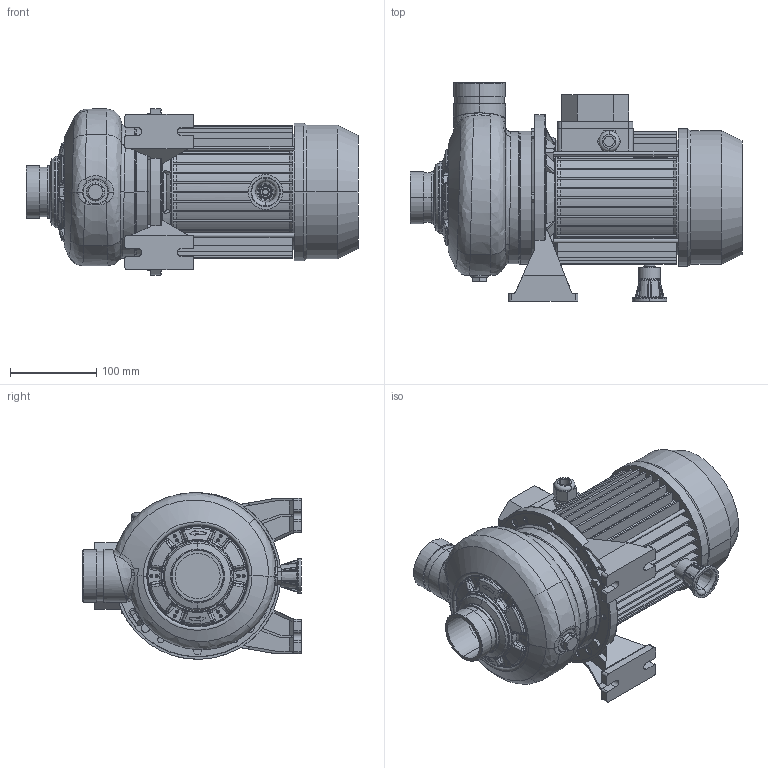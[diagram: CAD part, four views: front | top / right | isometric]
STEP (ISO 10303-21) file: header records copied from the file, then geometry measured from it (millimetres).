
FILE_DESCRIPTION((''),'2;1');
FILE_NAME('DWC_V_500_1_5_IE2_ASM','2011-06-27T',('Utente'),('"Ebara Pumps Europe +39.444.706811"'),'PRO/ENGINEER BY PARAMETRIC TECHNOLOGY CORPORATION, 2009360','PRO/ENGINEER BY PARAMETRIC TECHNOLOGY CORPORATION, 2009360','');
FILE_SCHEMA(('AUTOMOTIVE_DESIGN { 1 0 10303 214 1 1 1 1 }'));
Length unit declared in the file: millimetre
Products named in the file (12): MEC_80X120_IE2; 80596; 251420991; 10054; 76006; 40032; 62074; 10189; 20105_ASM; 72011; 72028; DWC_V_500_1_5_IE2_ASM
Assembly tree (13 placements, depth 3):
  DWC_V_500_1_5_IE2_ASM
    MEC_80X120_IE2
    80596
    20105_ASM
      251420991
      10054
      76006  x2
      40032  x2
      62074
      10189
    72011
    72028
Bounding box: 384.5 x 253 x 192.9 mm (x, y, z)
Volume: 2781210.6 mm3; surface area: 673614.4 mm2
Topology: 12 solids, 12 shells, 1646 faces, 3964 edges, 2396 vertices
Faces by surface type: plane 509, bspline 434, cylinder 282, torus 210, cone 165, sphere 42, extrusion 4
Entity records: 89702 total; most frequent: CARTESIAN_POINT 39576, ORIENTED_EDGE 7746, DIRECTION 6683, EDGE_CURVE 3873, PRESENTATION_STYLE_ASSIGNMENT 3826, STYLED_ITEM 3826, CURVE_STYLE 3817, AXIS2_PLACEMENT_3D 2773
